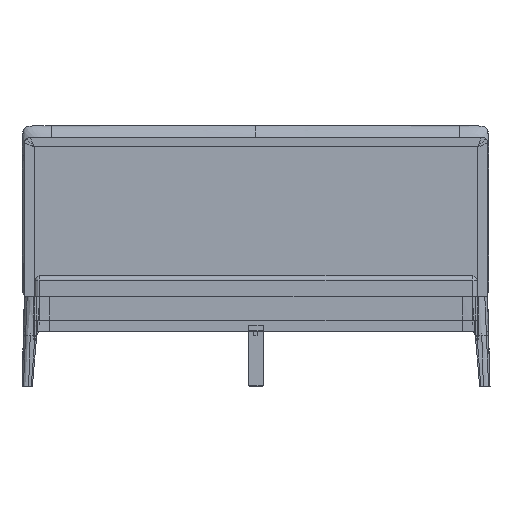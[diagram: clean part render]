
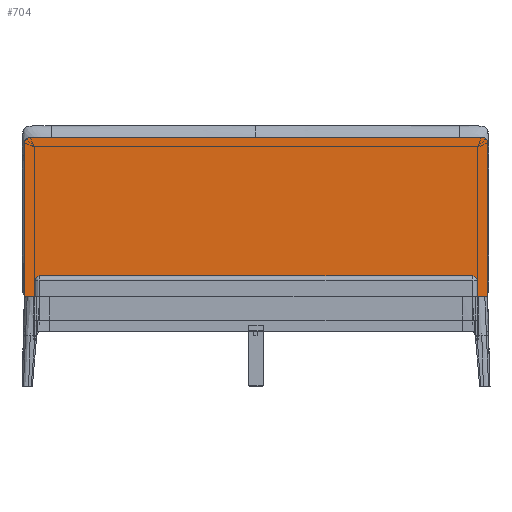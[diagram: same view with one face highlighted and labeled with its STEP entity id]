
A CAD part, front view. The second image highlights one B-rep face of the part: STEP entity #704.
In plain terms, the highlighted planar face has unit normal (0, -1, 0).
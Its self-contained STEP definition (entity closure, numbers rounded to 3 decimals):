
#704=ADVANCED_FACE('',(#1526),#11448,.T.);
#1526=FACE_OUTER_BOUND('',#2351,.T.);
#2351=EDGE_LOOP('',(#4246,#4247,#4248,#4249,#4250,#4251));
#4246=ORIENTED_EDGE('',*,*,#7161,.T.);
#4247=ORIENTED_EDGE('',*,*,#7163,.T.);
#4248=ORIENTED_EDGE('',*,*,#7165,.T.);
#4249=ORIENTED_EDGE('',*,*,#7168,.T.);
#4250=ORIENTED_EDGE('',*,*,#7170,.T.);
#4251=ORIENTED_EDGE('',*,*,#7172,.T.);
#7161=EDGE_CURVE('',#10490,#10489,#8401,.T.);
#7163=EDGE_CURVE('',#10489,#10491,#8403,.T.);
#7165=EDGE_CURVE('',#10491,#10493,#8405,.T.);
#7168=EDGE_CURVE('',#10493,#10494,#8408,.T.);
#7170=EDGE_CURVE('',#10494,#10495,#8410,.T.);
#7172=EDGE_CURVE('',#10495,#10490,#8412,.T.);
#8401=(
BOUNDED_CURVE()
B_SPLINE_CURVE(2,(#105989,#105990,#105991),.UNSPECIFIED.,.F.,.F.)
B_SPLINE_CURVE_WITH_KNOTS((3,3),(-12612.08,-11987.08),
 .UNSPECIFIED.)
CURVE()
GEOMETRIC_REPRESENTATION_ITEM()
RATIONAL_B_SPLINE_CURVE((1.,1.,1.))
REPRESENTATION_ITEM('')
);
#8403=(
BOUNDED_CURVE()
B_SPLINE_CURVE(2,(#105994,#105995,#105996),.UNSPECIFIED.,.F.,.F.)
B_SPLINE_CURVE_WITH_KNOTS((3,3),(-11987.08,-10101.08),
 .UNSPECIFIED.)
CURVE()
GEOMETRIC_REPRESENTATION_ITEM()
RATIONAL_B_SPLINE_CURVE((1.,1.,1.))
REPRESENTATION_ITEM('')
);
#8405=(
BOUNDED_CURVE()
B_SPLINE_CURVE(2,(#105999,#106000,#106001),.UNSPECIFIED.,.F.,.F.)
B_SPLINE_CURVE_WITH_KNOTS((3,3),(-10101.08,-9476.08),
 .UNSPECIFIED.)
CURVE()
GEOMETRIC_REPRESENTATION_ITEM()
RATIONAL_B_SPLINE_CURVE((1.,1.,1.))
REPRESENTATION_ITEM('')
);
#8408=(
BOUNDED_CURVE()
B_SPLINE_CURVE(2,(#106007,#106008,#106009),.UNSPECIFIED.,.F.,.F.)
B_SPLINE_CURVE_WITH_KNOTS((3,3),(-9476.08,-9436.81),
 .UNSPECIFIED.)
CURVE()
GEOMETRIC_REPRESENTATION_ITEM()
RATIONAL_B_SPLINE_CURVE((1.,0.707,1.))
REPRESENTATION_ITEM('')
);
#8410=(
BOUNDED_CURVE()
B_SPLINE_CURVE(2,(#106012,#106013,#106014),.UNSPECIFIED.,.F.,.F.)
B_SPLINE_CURVE_WITH_KNOTS((3,3),(-9436.81,-7600.81),
 .UNSPECIFIED.)
CURVE()
GEOMETRIC_REPRESENTATION_ITEM()
RATIONAL_B_SPLINE_CURVE((1.,1.,1.))
REPRESENTATION_ITEM('')
);
#8412=(
BOUNDED_CURVE()
B_SPLINE_CURVE(2,(#106018,#106019,#106020),.UNSPECIFIED.,.F.,.F.)
B_SPLINE_CURVE_WITH_KNOTS((3,3),(-7600.81,-7561.54),
 .UNSPECIFIED.)
CURVE()
GEOMETRIC_REPRESENTATION_ITEM()
RATIONAL_B_SPLINE_CURVE((1.,0.707,1.))
REPRESENTATION_ITEM('')
);
#10489=VERTEX_POINT('',#105868);
#10490=VERTEX_POINT('',#105869);
#10491=VERTEX_POINT('',#105870);
#10493=VERTEX_POINT('',#105872);
#10494=VERTEX_POINT('',#105873);
#10495=VERTEX_POINT('',#105874);
#11448=PLANE('',#12044);
#12044=AXIS2_PLACEMENT_3D('',#105744,#12589,$);
#12589=DIRECTION('',(0.,-1.,0.));
#105744=CARTESIAN_POINT('',(1178.75,-1499.266,1096.25));
#105868=CARTESIAN_POINT('',(-943.,-1499.266,365.));
#105869=CARTESIAN_POINT('',(-943.,-1499.266,990.));
#105870=CARTESIAN_POINT('',(943.,-1499.266,365.));
#105872=CARTESIAN_POINT('',(943.,-1499.266,990.));
#105873=CARTESIAN_POINT('',(918.,-1499.266,1015.));
#105874=CARTESIAN_POINT('',(-918.,-1499.266,1015.));
#105989=CARTESIAN_POINT('',(-943.,-1499.266,990.));
#105990=CARTESIAN_POINT('',(-943.,-1499.266,677.5));
#105991=CARTESIAN_POINT('',(-943.,-1499.266,365.));
#105994=CARTESIAN_POINT('',(-943.,-1499.266,365.));
#105995=CARTESIAN_POINT('',(0.,-1499.266,365.));
#105996=CARTESIAN_POINT('',(943.,-1499.266,365.));
#105999=CARTESIAN_POINT('',(943.,-1499.266,365.));
#106000=CARTESIAN_POINT('',(943.,-1499.266,677.5));
#106001=CARTESIAN_POINT('',(943.,-1499.266,990.));
#106007=CARTESIAN_POINT('',(943.,-1499.266,990.));
#106008=CARTESIAN_POINT('',(943.,-1499.266,1015.));
#106009=CARTESIAN_POINT('',(918.,-1499.266,1015.));
#106012=CARTESIAN_POINT('',(918.,-1499.266,1015.));
#106013=CARTESIAN_POINT('',(0.,-1499.266,1015.));
#106014=CARTESIAN_POINT('',(-918.,-1499.266,1015.));
#106018=CARTESIAN_POINT('',(-918.,-1499.266,1015.));
#106019=CARTESIAN_POINT('',(-943.,-1499.266,1015.));
#106020=CARTESIAN_POINT('',(-943.,-1499.266,990.));
